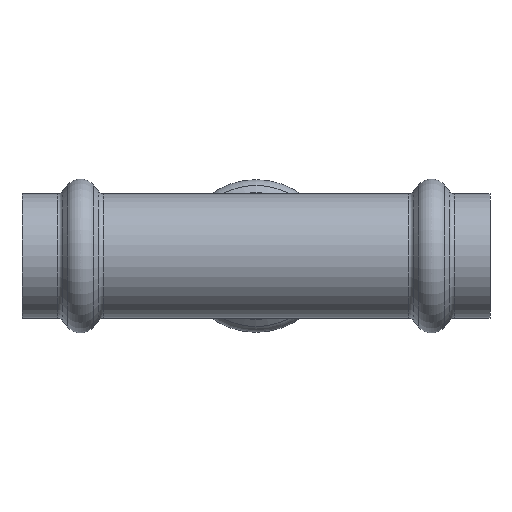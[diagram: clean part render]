
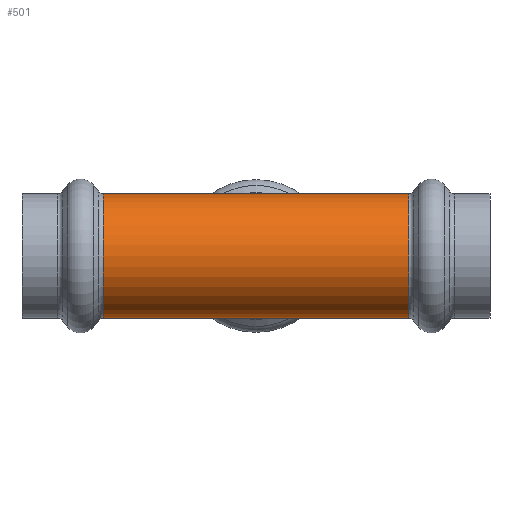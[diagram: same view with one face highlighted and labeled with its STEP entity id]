
A CAD part, front view. The second image highlights one B-rep face of the part: STEP entity #501.
In plain terms, the highlighted cylindrical face has radius 10.6 mm (diameter 21.2 mm), a partial arc.
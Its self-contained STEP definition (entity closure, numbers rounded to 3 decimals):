
#50 = DIRECTION ( 'NONE',  ( -1., 0., 0. ) ) ;
#267 = EDGE_CURVE ( 'NONE', #537, #2580, #391, .T. ) ;
#277 = EDGE_CURVE ( 'NONE', #2580, #3594, #3075, .T. ) ;
#391 = CIRCLE ( 'NONE', #2869, 10.6 ) ;
#501 = ADVANCED_FACE ( 'NONE', ( #3337 ), #3426, .T. ) ;
#537 = VERTEX_POINT ( 'NONE', #2086 ) ;
#758 = CARTESIAN_POINT ( 'NONE',  ( -58.611, 0., 0. ) ) ;
#777 = DIRECTION ( 'NONE',  ( 0., 0., 1. ) ) ;
#876 = VECTOR ( 'NONE', #2619, 1000. ) ;
#955 = AXIS2_PLACEMENT_3D ( 'NONE', #3222, #1221, #3534 ) ;
#957 = CARTESIAN_POINT ( 'NONE',  ( -58.611, 0., -10.6 ) ) ;
#1031 = CIRCLE ( 'NONE', #955, 10.6 ) ;
#1221 = DIRECTION ( 'NONE',  ( 1., 0., 0. ) ) ;
#1331 = VERTEX_POINT ( 'NONE', #3792 ) ;
#1423 = CARTESIAN_POINT ( 'NONE',  ( -26.077, 0., 10.6 ) ) ;
#1489 = ORIENTED_EDGE ( 'NONE', *, *, #267, .T. ) ;
#1747 = LINE ( 'NONE', #957, #876 ) ;
#2001 = ORIENTED_EDGE ( 'NONE', *, *, #3747, .T. ) ;
#2075 = VECTOR ( 'NONE', #3920, 1000. ) ;
#2086 = CARTESIAN_POINT ( 'NONE',  ( 26.077, 0., -10.6 ) ) ;
#2290 = CARTESIAN_POINT ( 'NONE',  ( 26.077, 0., 10.6 ) ) ;
#2418 = EDGE_LOOP ( 'NONE', ( #4178, #1489, #2468, #2001 ) ) ;
#2468 = ORIENTED_EDGE ( 'NONE', *, *, #277, .T. ) ;
#2580 = VERTEX_POINT ( 'NONE', #2290 ) ;
#2619 = DIRECTION ( 'NONE',  ( -1., 0., 0. ) ) ;
#2869 = AXIS2_PLACEMENT_3D ( 'NONE', #3937, #3950, #3959 ) ;
#3019 = AXIS2_PLACEMENT_3D ( 'NONE', #758, #50, #777 ) ;
#3075 = LINE ( 'NONE', #3907, #2075 ) ;
#3222 = CARTESIAN_POINT ( 'NONE',  ( -26.077, 0., 0. ) ) ;
#3337 = FACE_OUTER_BOUND ( 'NONE', #2418, .T. ) ;
#3367 = EDGE_CURVE ( 'NONE', #537, #1331, #1747, .T. ) ;
#3426 = CYLINDRICAL_SURFACE ( 'NONE', #3019, 10.6 ) ;
#3534 = DIRECTION ( 'NONE',  ( 0., 0., -1. ) ) ;
#3594 = VERTEX_POINT ( 'NONE', #1423 ) ;
#3747 = EDGE_CURVE ( 'NONE', #3594, #1331, #1031, .T. ) ;
#3792 = CARTESIAN_POINT ( 'NONE',  ( -26.077, 0., -10.6 ) ) ;
#3907 = CARTESIAN_POINT ( 'NONE',  ( -58.611, 0., 10.6 ) ) ;
#3920 = DIRECTION ( 'NONE',  ( -1., 0., 0. ) ) ;
#3937 = CARTESIAN_POINT ( 'NONE',  ( 26.077, 0., 0. ) ) ;
#3950 = DIRECTION ( 'NONE',  ( -1., 0., 0. ) ) ;
#3959 = DIRECTION ( 'NONE',  ( 0., 0., 1. ) ) ;
#4178 = ORIENTED_EDGE ( 'NONE', *, *, #3367, .F. ) ;
